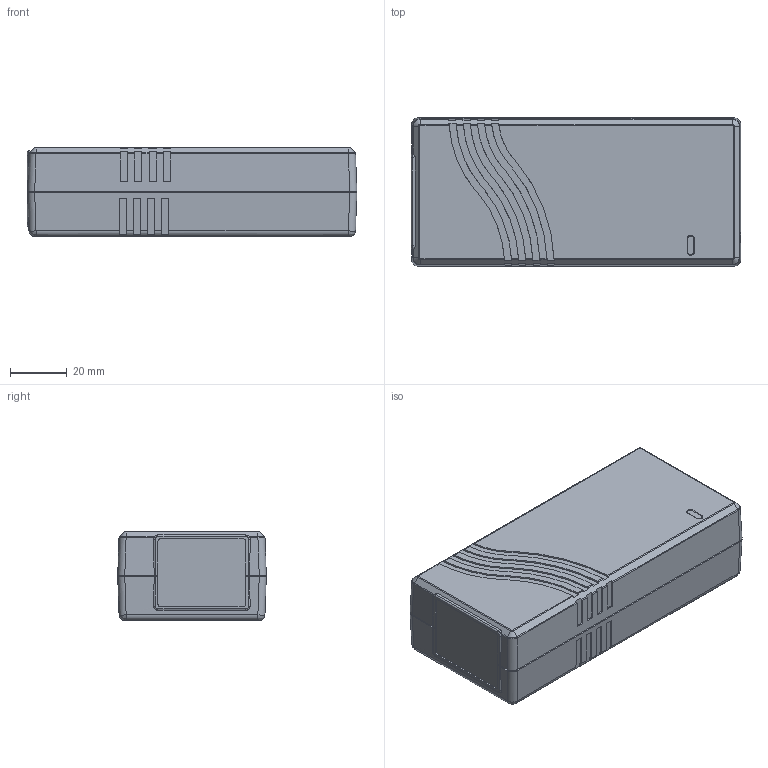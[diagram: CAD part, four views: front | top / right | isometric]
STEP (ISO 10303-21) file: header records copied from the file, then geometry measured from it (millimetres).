
FILE_DESCRIPTION((''),'2;1');
FILE_NAME('VEC40','2018-08-15T11:59:38',('jquinto'),(''),'CREO PARAMETRIC BY PTC INC, 2018100','CREO PARAMETRIC BY PTC INC, 2018100','');
FILE_SCHEMA(('CONFIG_CONTROL_DESIGN'));
Length unit declared in the file: millimetre
Products named in the file (1): VEC40
Bounding box: 116.25 x 52.41 x 31.33 mm (x, y, z)
Volume: 185036 mm3; surface area: 22724.8 mm2
Topology: 1 solids, 10 shells, 325 faces, 867 edges, 565 vertices
Faces by surface type: plane 202, cylinder 94, bspline 20, torus 6, sphere 2, extrusion 1
Entity records: 11398 total; most frequent: CARTESIAN_POINT 3428, ORIENTED_EDGE 1734, DIRECTION 1517, EDGE_CURVE 867, VECTOR 595, LINE 594, VERTEX_POINT 565, AXIS2_PLACEMENT_3D 461
